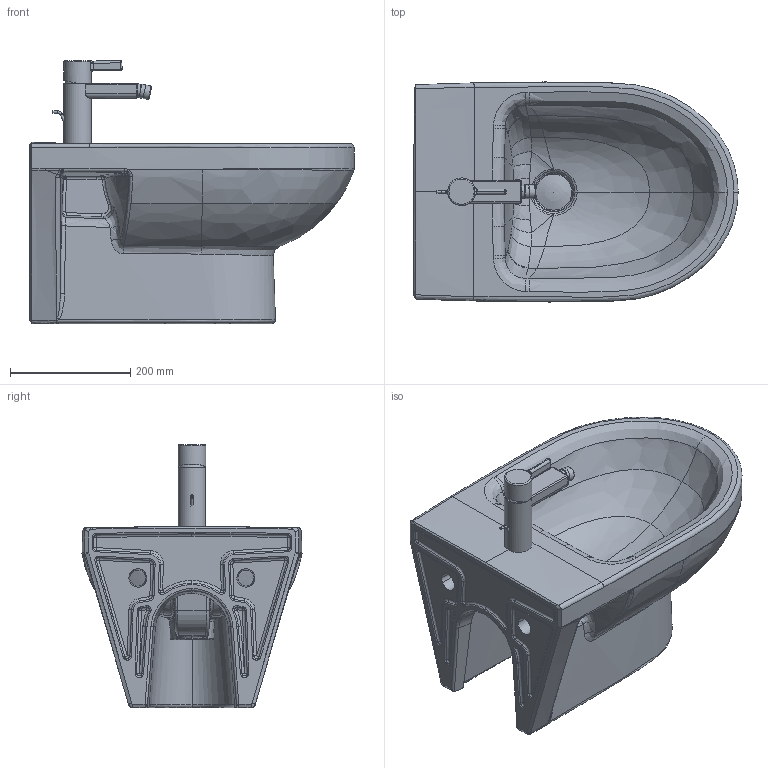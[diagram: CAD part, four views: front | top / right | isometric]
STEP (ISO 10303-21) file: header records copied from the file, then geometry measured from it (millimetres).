
FILE_DESCRIPTION((''),'2;1');
FILE_NAME('C:\Users\Administrator\Desktop\NEWS 2017 Step1\DuraStyle\3d\stp\227915.stp','2017-07-27T10:53:16',('Administrator'),(''),'Autodesk Inventor 2011','Autodesk Inventor 2011','');
FILE_SCHEMA(('CONFIG_CONTROL_DESIGN'));
Length unit declared in the file: millimetre
Products named in the file (11): 227915; Armatur Durastyle Bidet; Fassung Sieb; Griff; Gehäuse Bidet; Hebel_Ventil; Kugel; Gleitring; Kelch; Stopfen
Assembly tree (10 placements, depth 3):
  227915
    227915
    Armatur Durastyle Bidet
      Fassung Sieb
      Griff
      Gehäuse Bidet
      Hebel_Ventil
      Kugel
      Gleitring
    Kelch
    Stopfen
Bounding box: 540.1 x 366.55 x 438.75 mm (x, y, z)
Volume: 16872572.2 mm3; surface area: 1065666.7 mm2
Topology: 8 solids, 10 shells, 710 faces, 1729 edges, 1024 vertices
Faces by surface type: bspline 422, cylinder 117, plane 101, torus 47, sphere 16, cone 7
Full cylindrical faces by diameter (mm): 4 x2, 20.15 x1, 21.15 x1, 21.334 x1, 23.15 x1, 25 x1, 42 x1, 44 x1, 46 x3, 60 x1
Entity records: 97344 total; most frequent: CARTESIAN_POINT 82802, ORIENTED_EDGE 3354, DIRECTION 2211, EDGE_CURVE 1679, VERTEX_POINT 1013, AXIS2_PLACEMENT_3D 930, EDGE_LOOP 768, FACE_OUTER_BOUND 709
